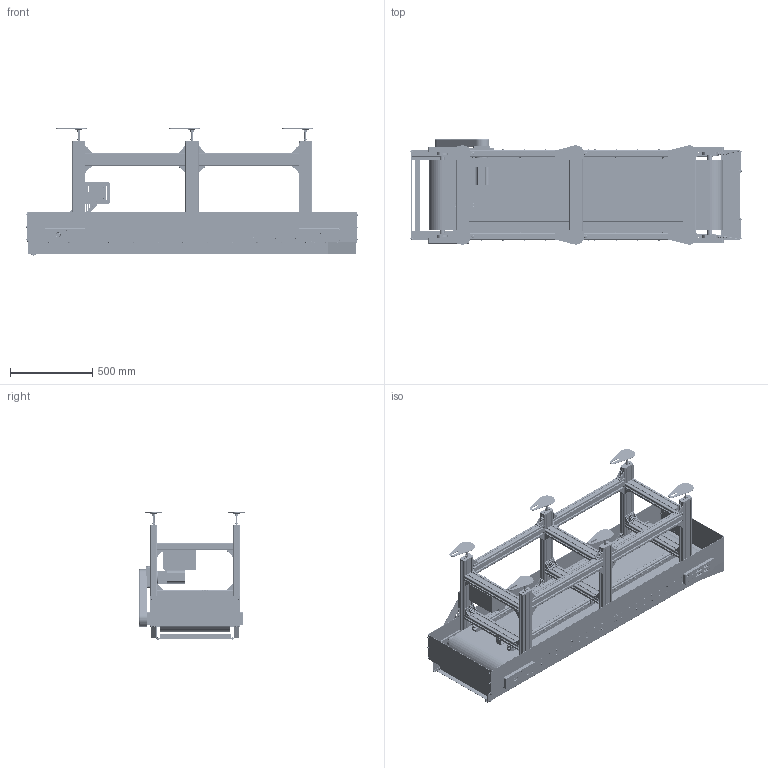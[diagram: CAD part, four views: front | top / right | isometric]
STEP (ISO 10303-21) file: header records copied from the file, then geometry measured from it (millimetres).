
FILE_DESCRIPTION(/* description */ (''),/* implementation_level */ '2;1');
FILE_NAME(/* name */ 'beltconveyor_a103_w430_l2000.stp',/* time_stamp */ '2025-01-05T22:14:37+08:00',/* author */ (''),/* organization */ (''),/* preprocessor_version */ 'ST-DEVELOPER v16.7',/* originating_system */ 'SIEMENS PLM Software NX 12.0',/* authorisation */ '');
FILE_SCHEMA (('AUTOMOTIVE_DESIGN { 1 0 10303 214 3 1 1 1 }'));
Products named in the file (75): GB／T6177．1-2000六角法兰面螺母A
级M8; 方型螺母M8; JXBJD01-130002防护后挡板右焊接件2; JXBJD01-130001防护后挡板右焊接件1; JXBJD01-120002防护后挡板左焊接件2; JXBJD01-120001防护后挡板左焊接件1; 皮带托条_默认_按加工_; 短横梁_默认_按加工_; KB-SMLFMH-M12X100-D80碳钢蹄脚; JXBJD01-110002脚杯垫板; 纵梁_默认_按加工_; 侧边支架_默认_按加工_; JXBJD01-110001固定脚板; 支腿_默认_按加工_; T型螺母M6; 直角件-40; GB／T97．2-1985平垫圈倒角型A
级5×1; GB／T93-1987标准型弹性垫圈(
装配)5×1．3; GB／T1096-1979普通平键C型6
×18; JXBJD01-100006传动轴; PCB盒接线端子盒; JXBJD01-100023上防护板2镜像件; 传感器EE-SX671; JXBJD01-100024传感器触碰片; JXBJD01-100022传感器调节片; JXBJD01-100018链条罩; JXBJD01-100015运输带托条钣金; 06B链条49节; 86HS85步进电机; 行星减速机 PL80-5; JXBJD01-100020防护后挡钣金; JXBJD01-100007传动轴固定块; JXBJD01-100008轴承座（后）; GB／T5287-2002特大垫圈C级6
×2; JXBJD01-100016运输带托条上; JXBJD01-100002电机固定块; JXBJD01-100003轴承座（前）; JXBJD01-100001电机安装板; JXBJD01-100013尾部防护前挡板2; GB／T70．1-2000内六角圆柱头螺钉M
8×60 ...
Assembly tree (588 placements, depth 4):
  beltconveyor_a103_w430_l2000
    GB／T70．1-2000内六角圆柱头螺钉M
6×20  x4
    T型螺母M5  x69
    GB／T70．1-2000内六角圆柱头螺钉M
8×20  x16
    JXBJD01-100017运输带托条下  x2
    GB／T70．1-2000内六角圆柱头螺钉M
5×20  x34
    平板链25.5 周长3800
    内六角M5X12附弹平垫  x115
      GB／T93-1987标准型弹性垫圈(
装配)5×1．3
      GB／T97．2-1985平垫圈倒角型A
级5×1
      GB／T70．1-2000内六角圆柱头螺钉M
5×12
    GB／T70．1-2000内六角圆柱头螺钉M
5×12  x2
    GB／T70．1-2000内六角圆柱头螺钉M
6×16  x10
    GB／T6172．1-2000六角薄螺母A
级和B级M8  x6
    GB／T70．1-2000内六角圆柱头螺钉M
8×16  x6
    JXBJD01-100014前罩板
    JXBJD01-100009从动轴
    GB／T70．1-2000内六角圆柱头螺钉M
8×35  x8
    JXBJD01-100010上防护板2
    JXBJD01-100019轴承座调紧块  x2
    链板链轮18齿  x4
    链轮配套轴套  x8
    GB／T276-94深沟球轴承61905-
2Z  x4
    GB／T77-2000内六角平端紧定螺钉M
5×12  x2
    GB／T70．1-2000内六角圆柱头螺钉M
6×10  x2
    GB／T70．1-2000内六角圆柱头螺钉M
3×16  x3
    GB／T1096-1979普通平键A型6
×25
    JXBJD01-100021传感器固定片
    JXBJD01-100012防护前挡板1  x2
    GB／T1096-1979普通平键A型8
×36  x4
    JXBJD01-100005传动链轮06B23齿_
05B  x2
    JXBJD01-100004主轴固定块  x2
    JXBJD01-100011调节护栏
    GB893．1-86孔用弹性挡圈A型4
2  x3
    GB／T70．1-2000内六角圆柱头螺钉M
8×60  x2
    JXBJD01-100013尾部防护前挡板2  x2
    JXBJD01-110000礼品盒流水线机架
      直角件-40  x48
      KB-DITS-C-M8X20-8附法兰螺母M8  x96
        方型螺母M8
        GB／T6177．1-2000六角法兰面螺母A
级M8
      T型螺母M6  x24
      支腿_默认_按加工_  x6
      GB／T70．1-2000内六角圆柱头螺钉M
6×10  x24
      JXBJD01-110001固定脚板  x6
      侧边支架_默认_按加工_  x2
      纵梁_默认_按加工_  x6
      JXBJD01-110002脚杯垫板  x6
      KB-SMLFMH-M12X100-D80碳钢蹄脚  x6
      短横梁_默认_按加工_  x4
      皮带托条_默认_按加工_  x2
    JXBJD01-100001电机安装板
    JXBJD01-100003轴承座（前）  x2
    JXBJD01-100002电机固定块
    JXBJD01-100016运输带托条上  x2
    GB／T5287-2002特大垫圈C级6
×2  x2
    JXBJD01-100008轴承座（后）  x2
    JXBJD01-100007传动轴固定块  x2
    JXBJD01-100020防护后挡钣金
    行星减速机 PL80-5
Bounding box: 2022.29 x 641.84 x 777.3 mm (x, y, z)
Volume: 44986466.6 mm3; surface area: 20582513.2 mm2
Topology: 1125 solids, 1125 shells, 24424 faces, 60660 edges, 39213 vertices
Faces by surface type: plane 11459, cylinder 7776, cone 2593, torus 1438, extrusion 738, sphere 416, bspline 4
Entity records: 225157 total; most frequent: CARTESIAN_POINT 48700, DIRECTION 36759, ORIENTED_EDGE 34158, EDGE_CURVE 17079, AXIS2_PLACEMENT_3D 14205, VERTEX_POINT 11120, VECTOR 8349, EDGE_LOOP 8349
